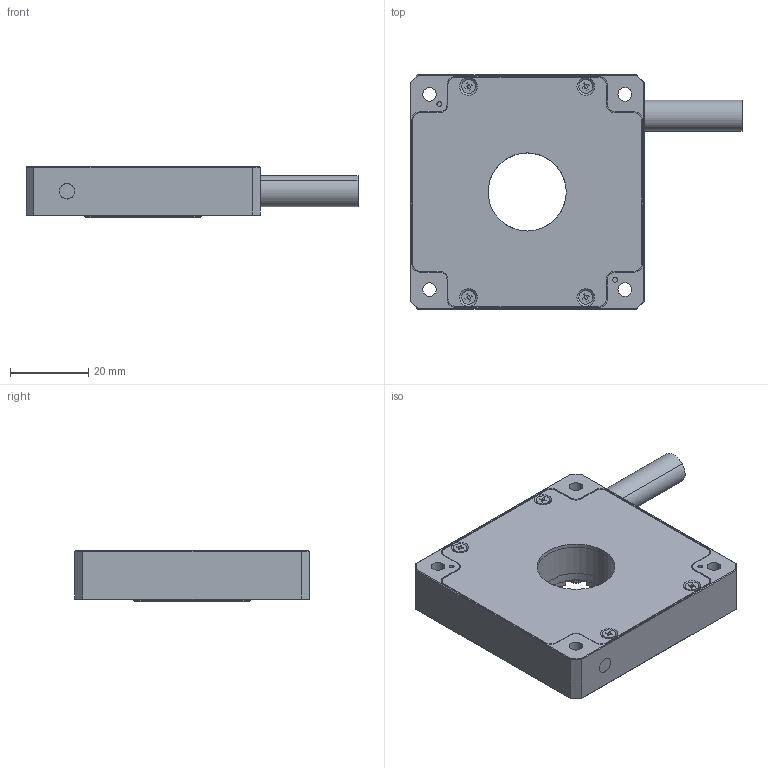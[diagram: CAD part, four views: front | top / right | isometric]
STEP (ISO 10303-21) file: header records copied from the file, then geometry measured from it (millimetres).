
FILE_DESCRIPTION (( 'STEP AP203' ), '1' );
FILE_NAME ('P16.XY100-B2三维外形图-22.09.16.STEP', '2022-09-16T02:33:28', ( '' ), ( '' ), 'SwSTEP 2.0', 'SolidWorks 2016', '' );
FILE_SCHEMA (( 'CONFIG_CONTROL_DESIGN' ));
Length unit declared in the file: millimetre
Products named in the file (1): P16.XY100-B2三维外形图-22.09.16
Bounding box: 85 x 60 x 13 mm (x, y, z)
Surface area: 22047.5 mm2 (no closed solid volume)
Topology: 0 solids, 18 shells, 445 faces, 1262 edges, 837 vertices
Faces by surface type: plane 232, cylinder 166, cone 39, torus 8
Entity records: 14638 total; most frequent: CARTESIAN_POINT 2742, DIRECTION 2563, ORIENTED_EDGE 2318, EDGE_CURVE 1262, AXIS2_PLACEMENT_3D 890, VERTEX_POINT 837, LINE 783, VECTOR 783
